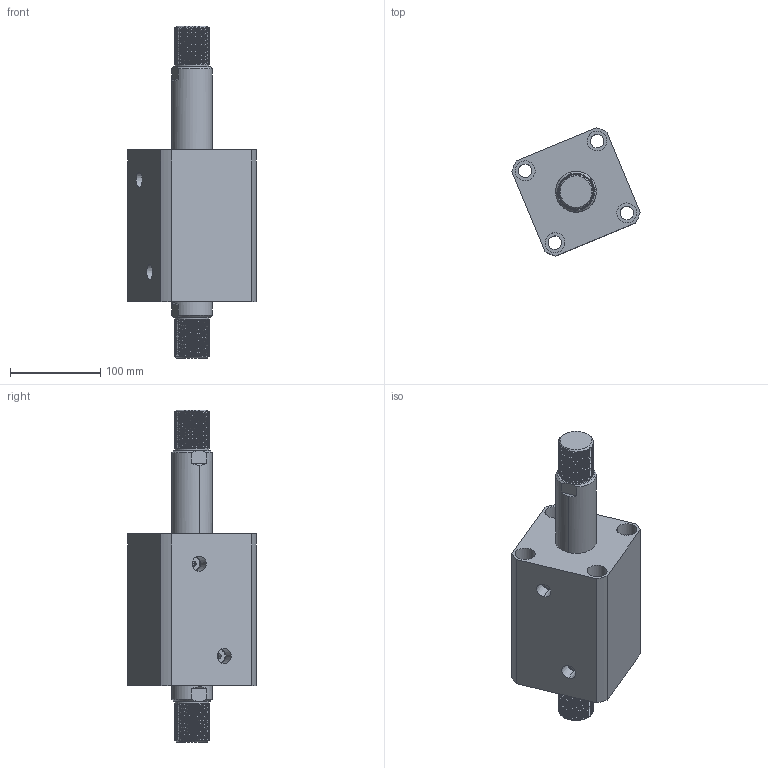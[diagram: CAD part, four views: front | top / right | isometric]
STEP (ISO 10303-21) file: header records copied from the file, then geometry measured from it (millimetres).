
FILE_DESCRIPTION (( 'STEP AP214' ), '1' );
FILE_NAME ('chtb-sw80x75w_asm.STEP', '2018-05-28T02:00:08', ( 'Windows' ), ( 'Microsoft' ), 'SwSTEP 2.0', 'SolidWorks 2015', '' );
FILE_SCHEMA (( 'AUTOMOTIVE_DESIGN' ));
Length unit declared in the file: millimetre
Products named in the file (4): CHTB-SW80X75NBT; CHTB-SD80QG; chtb-sw80x75w_asm; CHTB-SW80X75WHSG
Assembly tree (3 placements, depth 2):
  chtb-sw80x75w_asm
    CHTB-SD80QG
    CHTB-SW80X75NBT
    CHTB-SW80X75WHSG
Bounding box: 142.06 x 142.06 x 367 mm (x, y, z)
Volume: 2008824.8 mm3; surface area: 268839.9 mm2
Topology: 3 solids, 3 shells, 330 faces, 908 edges, 607 vertices
Faces by surface type: cylinder 221, plane 48, cone 25, bspline 18, torus 18
Entity records: 25864 total; most frequent: CARTESIAN_POINT 18238, ORIENTED_EDGE 1808, DIRECTION 1338, EDGE_CURVE 904, VERTEX_POINT 607, AXIS2_PLACEMENT_3D 532, EDGE_LOOP 373, FACE_OUTER_BOUND 330
